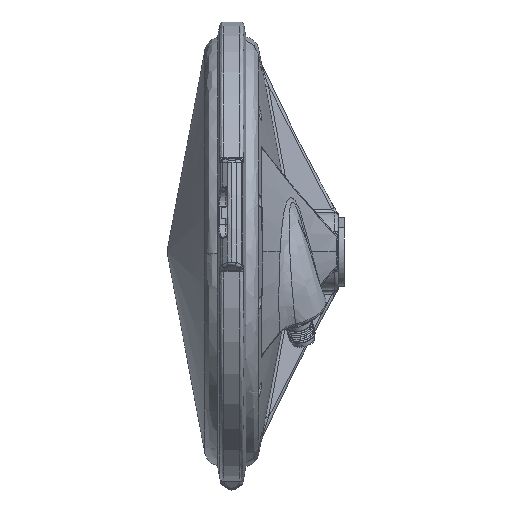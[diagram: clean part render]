
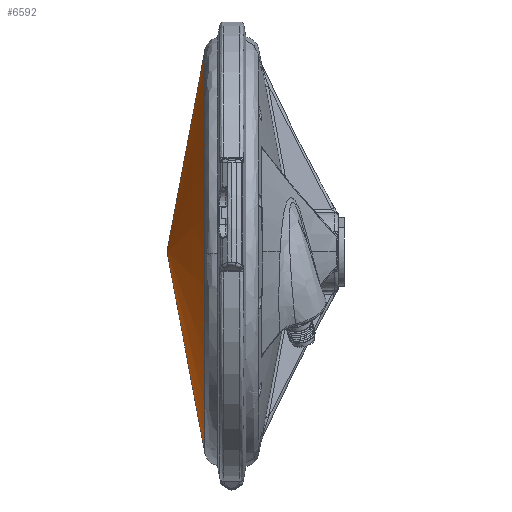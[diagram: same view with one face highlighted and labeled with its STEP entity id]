
A CAD part, left-side view. The second image highlights one B-rep face of the part: STEP entity #6592.
In plain terms, the highlighted conical face has half-angle 79.341 degrees and reference radius 1.157 mm.
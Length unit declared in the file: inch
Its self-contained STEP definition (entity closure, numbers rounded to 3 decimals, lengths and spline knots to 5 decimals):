
#1028 = DIRECTION ( 'NONE',  ( 0., 0., -1. ) ) ;
#2203 = EDGE_CURVE ( 'NONE', #8783, #36171, #30333, .T. ) ;
#2310 = CONICAL_SURFACE ( 'NONE', #11755, 0.04555, 1.385 ) ;
#5482 = DIRECTION ( 'NONE',  ( 0., 0., -1. ) ) ;
#6486 = EDGE_LOOP ( 'NONE', ( #24283, #37931 ) ) ;
#6592 = ADVANCED_FACE ( 'NONE', ( #35330, #14665 ), #2310, .T. ) ;
#6974 = EDGE_CURVE ( 'NONE', #17302, #17302, #24692, .T. ) ;
#8783 = VERTEX_POINT ( 'NONE', #40822 ) ;
#11755 = AXIS2_PLACEMENT_3D ( 'NONE', #29793, #11964, #1028 ) ;
#11939 = CARTESIAN_POINT ( 'NONE',  ( 0., 1.27331, 0. ) ) ;
#11964 = DIRECTION ( 'NONE',  ( 0., -1., 0. ) ) ;
#12091 = DIRECTION ( 'NONE',  ( 0., 0., -1. ) ) ;
#14665 = FACE_OUTER_BOUND ( 'NONE', #6486, .T. ) ;
#17302 = VERTEX_POINT ( 'NONE', #38072 ) ;
#19796 = CARTESIAN_POINT ( 'NONE',  ( 3.28971, 1.27331, 0.02767 ) ) ;
#21732 = DIRECTION ( 'NONE',  ( 0., 0., -1. ) ) ;
#24283 = ORIENTED_EDGE ( 'NONE', *, *, #30116, .F. ) ;
#24692 = CIRCLE ( 'NONE', #29757, 0.04555 ) ;
#27025 = EDGE_LOOP ( 'NONE', ( #27228 ) ) ;
#27228 = ORIENTED_EDGE ( 'NONE', *, *, #6974, .F. ) ;
#29211 = CIRCLE ( 'NONE', #44126, 3.28982 ) ;
#29757 = AXIS2_PLACEMENT_3D ( 'NONE', #46452, #32379, #21732 ) ;
#29793 = CARTESIAN_POINT ( 'NONE',  ( 0., 1.88393, 0. ) ) ;
#30116 = EDGE_CURVE ( 'NONE', #36171, #8783, #29211, .T. ) ;
#30333 = CIRCLE ( 'NONE', #37141, 3.28982 ) ;
#32379 = DIRECTION ( 'NONE',  ( 0., 1., 0. ) ) ;
#33500 = DIRECTION ( 'NONE',  ( 0., -1., 0. ) ) ;
#35330 = FACE_BOUND ( 'NONE', #27025, .T. ) ;
#36171 = VERTEX_POINT ( 'NONE', #19796 ) ;
#37141 = AXIS2_PLACEMENT_3D ( 'NONE', #38736, #43560, #5482 ) ;
#37931 = ORIENTED_EDGE ( 'NONE', *, *, #2203, .F. ) ;
#38072 = CARTESIAN_POINT ( 'NONE',  ( 0., 1.88393, -0.04555 ) ) ;
#38736 = CARTESIAN_POINT ( 'NONE',  ( 0., 1.27331, 0. ) ) ;
#40822 = CARTESIAN_POINT ( 'NONE',  ( -3.28971, 1.27331, -0.02767 ) ) ;
#43560 = DIRECTION ( 'NONE',  ( 0., -1., 0. ) ) ;
#44126 = AXIS2_PLACEMENT_3D ( 'NONE', #11939, #33500, #12091 ) ;
#46452 = CARTESIAN_POINT ( 'NONE',  ( 0., 1.88393, 0. ) ) ;
